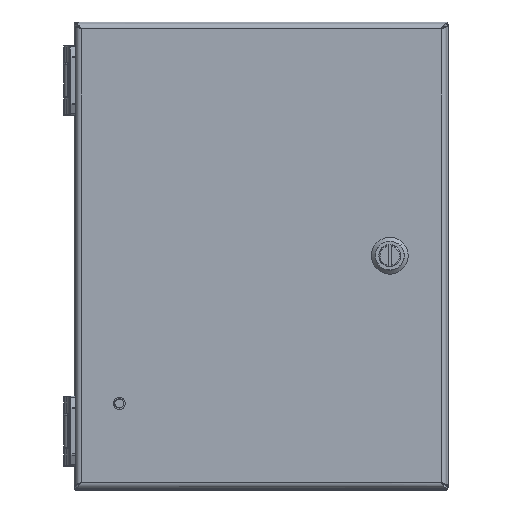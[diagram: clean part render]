
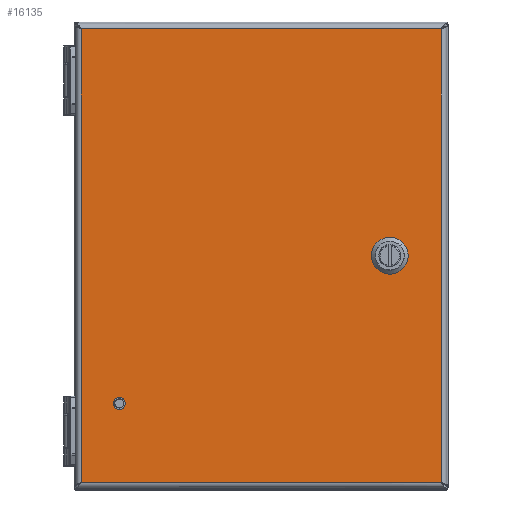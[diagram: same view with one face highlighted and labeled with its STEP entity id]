
A CAD part, top view. The second image highlights one B-rep face of the part: STEP entity #16135.
In plain terms, the highlighted planar face has unit normal (0, 0, 1).
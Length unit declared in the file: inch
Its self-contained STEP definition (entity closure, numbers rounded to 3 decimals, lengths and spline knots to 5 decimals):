
#14234=CARTESIAN_POINT('',(-3.035,-3.16,0.81));
#14235=DIRECTION('',(0.,0.,1.));
#14236=DIRECTION('',(-1.,0.,0.));
#14237=AXIS2_PLACEMENT_3D('',#14234,#14235,#14236);
#14242=CARTESIAN_POINT('',(-3.035,-3.16,0.81));
#14243=DIRECTION('',(0.,0.,1.));
#14244=DIRECTION('',(1.,0.,0.));
#14245=AXIS2_PLACEMENT_3D('',#14242,#14243,#14244);
#14250=DIRECTION('',(0.707,0.707,0.));
#14251=VECTOR('',#14250,0.30984);
#14252=CARTESIAN_POINT('',(2.44447,0.08845,0.81));
#14253=LINE('',#14252,#14251);
#14257=CARTESIAN_POINT('',(2.752,0.,0.81));
#14258=DIRECTION('',(0.,0.,1.));
#14259=DIRECTION('',(-0.961,0.276,0.));
#14260=AXIS2_PLACEMENT_3D('',#14257,#14258,#14259);
#14265=DIRECTION('',(-0.707,0.707,0.));
#14266=VECTOR('',#14265,0.30984);
#14267=CARTESIAN_POINT('',(2.66355,-0.30753,0.81));
#14268=LINE('',#14267,#14266);
#14272=CARTESIAN_POINT('',(2.752,0.,0.81));
#14273=DIRECTION('',(0.,0.,1.));
#14274=DIRECTION('',(-0.276,-0.961,0.));
#14275=AXIS2_PLACEMENT_3D('',#14272,#14273,#14274);
#14280=DIRECTION('',(-0.707,-0.707,0.));
#14281=VECTOR('',#14280,0.30984);
#14282=CARTESIAN_POINT('',(3.05953,-0.08845,0.81));
#14283=LINE('',#14282,#14281);
#14287=CARTESIAN_POINT('',(2.752,0.,0.81));
#14288=DIRECTION('',(0.,0.,1.));
#14289=DIRECTION('',(0.961,-0.276,0.));
#14290=AXIS2_PLACEMENT_3D('',#14287,#14288,#14289);
#14295=DIRECTION('',(0.707,-0.707,0.));
#14296=VECTOR('',#14295,0.30984);
#14297=CARTESIAN_POINT('',(2.84045,0.30753,0.81));
#14298=LINE('',#14297,#14296);
#14302=CARTESIAN_POINT('',(2.752,0.,0.81));
#14303=DIRECTION('',(0.,0.,1.));
#14304=DIRECTION('',(0.276,0.961,0.));
#14305=AXIS2_PLACEMENT_3D('',#14302,#14303,#14304);
#14310=DIRECTION('',(1.,0.,0.));
#14311=VECTOR('',#14310,7.7);
#14312=CARTESIAN_POINT('',(-3.85,-4.85,0.81));
#14313=LINE('',#14312,#14311);
#14405=DIRECTION('',(0.,1.,0.));
#14406=VECTOR('',#14405,9.7);
#14407=CARTESIAN_POINT('',(3.85,-4.85,0.81));
#14408=LINE('',#14407,#14406);
#14456=DIRECTION('',(-1.,0.,0.));
#14457=VECTOR('',#14456,7.7);
#14458=CARTESIAN_POINT('',(3.85,4.85,0.81));
#14459=LINE('',#14458,#14457);
#14558=DIRECTION('',(0.,-1.,0.));
#14559=VECTOR('',#14558,9.7);
#14560=CARTESIAN_POINT('',(-3.85,4.85,0.81));
#14561=LINE('',#14560,#14559);
#15864=CARTESIAN_POINT('',(-3.85,4.85,0.81));
#15865=CARTESIAN_POINT('',(-3.85,-4.85,0.81));
#15866=VERTEX_POINT('',#15864);
#15867=VERTEX_POINT('',#15865);
#15868=CARTESIAN_POINT('',(3.85,-4.85,0.81));
#15869=CARTESIAN_POINT('',(3.85,4.85,0.81));
#15870=VERTEX_POINT('',#15868);
#15871=VERTEX_POINT('',#15869);
#15936=CARTESIAN_POINT('',(-3.13305,-3.16,0.81));
#15937=CARTESIAN_POINT('',(-2.93695,-3.16,0.81));
#15938=VERTEX_POINT('',#15936);
#15939=VERTEX_POINT('',#15937);
#15944=CARTESIAN_POINT('',(2.44447,0.08845,0.81));
#15945=CARTESIAN_POINT('',(2.66355,0.30753,0.81));
#15946=VERTEX_POINT('',#15944);
#15947=VERTEX_POINT('',#15945);
#15948=CARTESIAN_POINT('',(2.84045,0.30753,0.81));
#15949=VERTEX_POINT('',#15948);
#15950=CARTESIAN_POINT('',(3.05953,0.08845,0.81));
#15951=VERTEX_POINT('',#15950);
#15952=CARTESIAN_POINT('',(3.05953,-0.08845,0.81));
#15953=VERTEX_POINT('',#15952);
#15954=CARTESIAN_POINT('',(2.84045,-0.30753,0.81));
#15955=VERTEX_POINT('',#15954);
#15956=CARTESIAN_POINT('',(2.66355,-0.30753,0.81));
#15957=VERTEX_POINT('',#15956);
#15958=CARTESIAN_POINT('',(2.44447,-0.08845,0.81));
#15959=VERTEX_POINT('',#15958);
#16096=CARTESIAN_POINT('',(0.,0.,0.81));
#16097=DIRECTION('',(0.,0.,1.));
#16098=DIRECTION('',(1.,0.,0.));
#16099=AXIS2_PLACEMENT_3D('',#16096,#16097,#16098);
#16100=PLANE('',#16099);
#16102=ORIENTED_EDGE('',*,*,#16101,.F.);
#16104=ORIENTED_EDGE('',*,*,#16103,.F.);
#16106=ORIENTED_EDGE('',*,*,#16105,.F.);
#16108=ORIENTED_EDGE('',*,*,#16107,.F.);
#16109=EDGE_LOOP('',(#16102,#16104,#16106,#16108));
#16110=FACE_OUTER_BOUND('',#16109,.F.);
#16112=ORIENTED_EDGE('',*,*,#16111,.T.);
#16114=ORIENTED_EDGE('',*,*,#16113,.T.);
#16115=EDGE_LOOP('',(#16112,#16114));
#16116=FACE_BOUND('',#16115,.F.);
#16118=ORIENTED_EDGE('',*,*,#16117,.F.);
#16120=ORIENTED_EDGE('',*,*,#16119,.T.);
#16122=ORIENTED_EDGE('',*,*,#16121,.F.);
#16124=ORIENTED_EDGE('',*,*,#16123,.T.);
#16126=ORIENTED_EDGE('',*,*,#16125,.F.);
#16128=ORIENTED_EDGE('',*,*,#16127,.T.);
#16130=ORIENTED_EDGE('',*,*,#16129,.F.);
#16132=ORIENTED_EDGE('',*,*,#16131,.T.);
#16133=EDGE_LOOP('',(#16118,#16120,#16122,#16124,#16126,#16128,#16130,#16132));
#16134=FACE_BOUND('',#16133,.F.);
#14238=CIRCLE('',#14237,0.09805);
#14246=CIRCLE('',#14245,0.09805);
#14261=CIRCLE('',#14260,0.32);
#14276=CIRCLE('',#14275,0.32);
#14291=CIRCLE('',#14290,0.32);
#14306=CIRCLE('',#14305,0.32);
#16101=EDGE_CURVE('',#15867,#15870,#14313,.T.);
#16103=EDGE_CURVE('',#15866,#15867,#14561,.T.);
#16105=EDGE_CURVE('',#15871,#15866,#14459,.T.);
#16107=EDGE_CURVE('',#15870,#15871,#14408,.T.);
#16111=EDGE_CURVE('',#15938,#15939,#14238,.T.);
#16113=EDGE_CURVE('',#15939,#15938,#14246,.T.);
#16117=EDGE_CURVE('',#15946,#15947,#14253,.T.);
#16119=EDGE_CURVE('',#15946,#15959,#14261,.T.);
#16121=EDGE_CURVE('',#15957,#15959,#14268,.T.);
#16123=EDGE_CURVE('',#15957,#15955,#14276,.T.);
#16125=EDGE_CURVE('',#15953,#15955,#14283,.T.);
#16127=EDGE_CURVE('',#15953,#15951,#14291,.T.);
#16129=EDGE_CURVE('',#15949,#15951,#14298,.T.);
#16131=EDGE_CURVE('',#15949,#15947,#14306,.T.);
#16135=ADVANCED_FACE('',(#16110,#16116,#16134),#16100,.T.);
